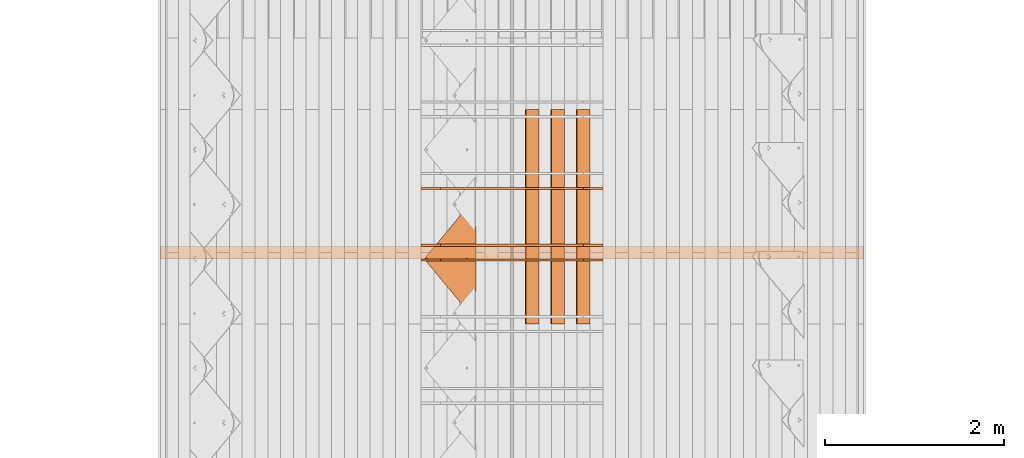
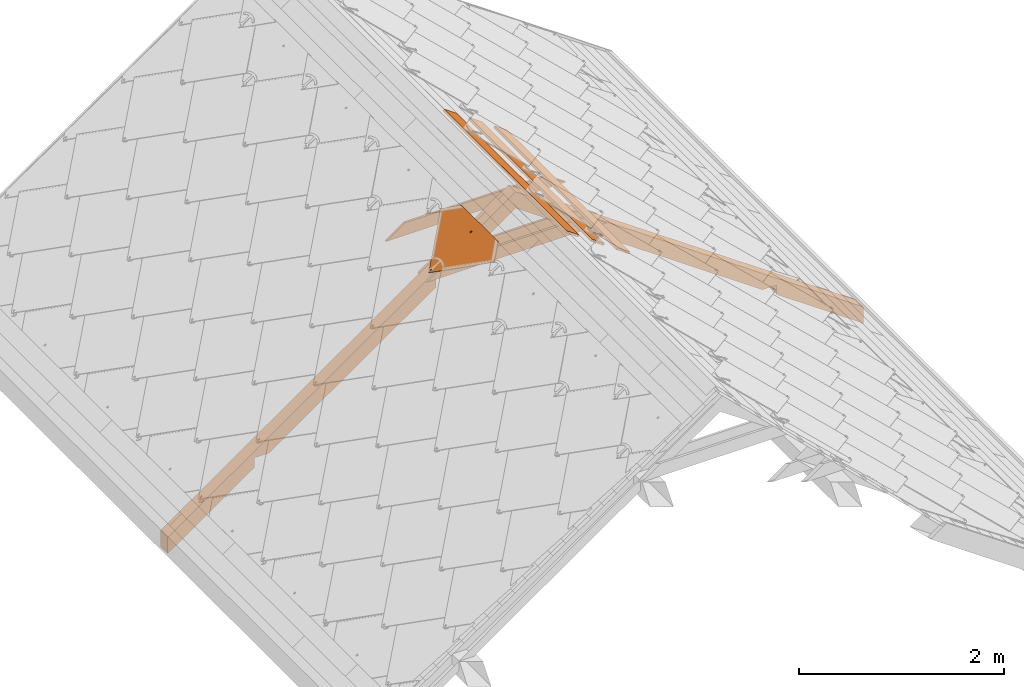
# One storey, part 56 of 133: 8 proxies, 1 element without a shape of its own.
"""IFC2X3 building model written with IfcOpenShell, lengths in millimetres."""

import ifcopenshell
import ifcopenshell.guid

model = None  # the IFC model being written
_history = None  # IfcOwnerHistory: only IFC2X3 demands one
_inside = {}  # id of a spatial element -> (the spatial element, [elements in it])
_under = {}  # id of a project, library or spatial element -> (it, [spatial elements below it])
_declared = {}  # id of a project -> (the project, [libraries it declares])
_typed = {}  # id of a type object -> (the type object, [elements of that type])
_made_of = {}  # id of a material, layer set ... -> (it, [elements and type objects made of it])


def new_model(schema):
    """Start an empty IFC model of exactly this schema.

    Asked for "IFC4X3", IfcOpenShell would pick the latest addendum, in which some entities
    have other attributes; the version numbers below select the first issue.
    IFC2X3 requires an IfcOwnerHistory on every rooted entity: one is made here for all.
    """
    global model, _history
    if schema == "IFC4X3":
        model = ifcopenshell.file(schema_version=(4, 3, 0, 0))
    else:
        model = ifcopenshell.file(schema=schema)
    _inside.clear()
    _under.clear()
    _declared.clear()
    _typed.clear()
    _made_of.clear()
    _history = None
    if model.schema == "IFC2X3":
        org = make("IfcOrganization", Name="unknown")
        user = make(
            "IfcPersonAndOrganization",
            ThePerson=make("IfcPerson", FamilyName="unknown"),
            TheOrganization=org,
        )
        app = make(
            "IfcApplication",
            ApplicationDeveloper=org,
            Version="unknown",
            ApplicationFullName="unknown",
            ApplicationIdentifier="unknown",
        )
        _history = make(
            "IfcOwnerHistory",
            OwningUser=user,
            OwningApplication=app,
            ChangeAction="ADDED",
            CreationDate=0,
        )
    return model


def make(cls, **values):
    """One entity of the class cls with the attributes given. An attribute that is None is left unset."""
    return model.create_entity(
        cls, **{name: value for name, value in values.items() if value is not None}
    )


def entity(cls, *values):
    """Any entity or typed value of the class cls, its attributes in the order of the schema. None: left unset."""
    e = model.create_entity(cls)
    for i, value in enumerate(values):
        if value is not None:
            e[i] = value
    return e


def rooted(cls, **values):
    """An entity with a GlobalId (a new one), such as an element, a storey or a relation."""
    return make(cls, GlobalId=ifcopenshell.guid.new(), OwnerHistory=_history, **values)


def si_unit(unit_type, name, prefix=None):
    """IfcSIUnit, for example si_unit("LENGTHUNIT", "METRE", prefix="MILLI")."""
    return make("IfcSIUnit", UnitType=unit_type, Prefix=prefix, Name=name)


def converted_unit(unit_type, name, factor, base, dimensions=None, offset=None):
    """IfcConversionBasedUnit, such as the inch: factor (a typed value) times the base unit."""
    return make(
        "IfcConversionBasedUnit"
        if offset is None
        else "IfcConversionBasedUnitWithOffset",
        ConversionOffset=offset,
        Dimensions=None
        if dimensions is None
        else entity("IfcDimensionalExponents", *dimensions),
        UnitType=unit_type,
        Name=name,
        ConversionFactor=make(
            "IfcMeasureWithUnit", ValueComponent=factor, UnitComponent=base
        ),
    )


def derived_unit(unit_type, elements):
    """IfcDerivedUnit: a product of units, each with its exponent."""
    return make(
        "IfcDerivedUnit",
        Elements=[
            make("IfcDerivedUnitElement", Unit=unit, Exponent=power)
            for unit, power in elements
        ],
        UnitType=unit_type,
    )


def assignment(units):
    """IfcUnitAssignment: the units of a project."""
    return None if units is None else make("IfcUnitAssignment", Units=units)


def point(xyz):
    """IfcCartesianPoint."""
    return None if xyz is None else make("IfcCartesianPoint", Coordinates=xyz)


def direction(xyz):
    """IfcDirection."""
    return None if xyz is None else make("IfcDirection", DirectionRatios=xyz)


def frame(location, z_axis=None, x_axis=None):
    """IfcAxis2Placement3D, a coordinate frame: its origin and axes. An axis left out is left unset."""
    return make(
        "IfcAxis2Placement3D",
        Location=point(location),
        Axis=direction(z_axis),
        RefDirection=direction(x_axis),
    )


def frame_2d(location, x_axis=None):
    """IfcAxis2Placement2D, a coordinate frame in the plane: its origin and x axis."""
    return make(
        "IfcAxis2Placement2D", Location=point(location), RefDirection=direction(x_axis)
    )


def origin():
    """The frame at (0, 0, 0) with its axes left unset."""
    return frame((0.0, 0.0, 0.0))


def place(relative_to, where):
    """IfcLocalPlacement: puts the frame where relative to a parent placement (None: the world)."""
    return make(
        "IfcLocalPlacement", PlacementRelTo=relative_to, RelativePlacement=where
    )


def context(
    kind, dimensions, precision=None, world=None, true_north=None, identifier=None
):
    """IfcGeometricRepresentationContext, for example the 3D "Model" context."""
    return make(
        "IfcGeometricRepresentationContext",
        ContextIdentifier=identifier,
        ContextType=kind,
        CoordinateSpaceDimension=dimensions,
        Precision=precision,
        WorldCoordinateSystem=world,
        TrueNorth=true_north,
    )


def subcontext(parent, identifier, kind, view, scale=None):
    """IfcGeometricRepresentationSubContext, for example "Body" below "Model"."""
    return make(
        "IfcGeometricRepresentationSubContext",
        ContextIdentifier=identifier,
        ContextType=kind,
        ParentContext=parent,
        TargetScale=scale,
        TargetView=view,
    )


def project(units=None, contexts=None):
    """IfcProject with its units and contexts."""
    return rooted(
        "IfcProject",
        Name="project",
        RepresentationContexts=contexts,
        UnitsInContext=assignment(units),
    )


def spatial(cls, under=None, at=None, **own):
    """A site, building, storey or space (cls), placed at a placement, below another one or the project."""
    s = rooted(cls, ObjectPlacement=at, **own)
    if under is not None:
        _under.setdefault(under.id(), (under, []))[1].append(s)
    return s


def polyline(points):
    """IfcPolyline through the points."""
    return make("IfcPolyline", Points=[point(p) for p in points])


def profile(cls, at=None, kind="AREA", **sizes):
    """A parametric profile (cls). Its sizes go by their IFC names, for example OverallWidth=200.0."""
    return make(cls, ProfileType=kind, Position=at, **sizes)


def rectangle(**sizes):
    """IfcRectangleProfileDef."""
    return profile("IfcRectangleProfileDef", **sizes)


def outline(outer, holes=None, kind="AREA"):
    """IfcArbitraryClosedProfileDef: a profile drawn as a closed curve; with holes, ...WithVoids."""
    if holes is None:
        return make("IfcArbitraryClosedProfileDef", ProfileType=kind, OuterCurve=outer)
    return make(
        "IfcArbitraryProfileDefWithVoids",
        ProfileType=kind,
        OuterCurve=outer,
        InnerCurves=holes,
    )


def extrude(swept, where, along, depth):
    """IfcExtrudedAreaSolid: the profile swept, set in the frame where, extruded along a direction by depth."""
    return make(
        "IfcExtrudedAreaSolid",
        SweptArea=swept,
        Position=where,
        ExtrudedDirection=direction(along),
        Depth=depth,
    )


def faces_of(points, faces, orient=None, outer=None):
    """IfcFace entities. A face is a list of loops; a loop is a list of indices into points, from 0.

    orient and outer hold one flag for each loop. By default every Orientation is true, the
    first loop of a face is its IfcFaceOuterBound and the others are IfcFaceBound.
    """
    made = []
    for i, loops in enumerate(faces):
        bounds = []
        for j, loop in enumerate(loops):
            is_outer = j == 0 if outer is None else outer[i][j]
            bounds.append(
                make(
                    "IfcFaceOuterBound" if is_outer else "IfcFaceBound",
                    Bound=make("IfcPolyLoop", Polygon=[points[k] for k in loop]),
                    Orientation=True if orient is None else orient[i][j],
                )
            )
        made.append(make("IfcFace", Bounds=bounds))
    return made


def faceted_brep(points, faces, orient=None, outer=None, voids=None):
    """IfcFacetedBrep: a solid bounded by flat faces; with voids (closed shells), ...WithVoids."""
    shared = [point(p) for p in points]
    hull = make("IfcClosedShell", CfsFaces=faces_of(shared, faces, orient, outer))
    if voids is None:
        return make("IfcFacetedBrep", Outer=hull)
    return make(
        "IfcFacetedBrepWithVoids",
        Outer=hull,
        Voids=[
            make(cls, CfsFaces=faces_of(shared, fs, o, b)) for cls, fs, o, b in voids
        ],
    )


def shape(context_of_items, identifier, shape_type, items):
    """IfcShapeRepresentation: the items that make up one representation, for example the "Body"."""
    return make(
        "IfcShapeRepresentation",
        ContextOfItems=context_of_items,
        RepresentationIdentifier=identifier,
        RepresentationType=shape_type,
        Items=items,
    )


def source(mapping_origin, context_of_items, identifier, shape_type, items):
    """IfcRepresentationMap: a shape defined once, which mapped items show again and again."""
    return make(
        "IfcRepresentationMap",
        MappingOrigin=mapping_origin,
        MappedRepresentation=shape(context_of_items, identifier, shape_type, items),
    )


def transform(
    local_origin,
    x_axis=None,
    y_axis=None,
    z_axis=None,
    scale=None,
    scale2=None,
    scale3=None,
    uniform=True,
):
    """IfcCartesianTransformationOperator3D, or its non-uniform kind. x_axis, y_axis, z_axis: its Axis1, 2, 3."""
    if uniform:
        return make(
            "IfcCartesianTransformationOperator3D",
            Axis1=direction(x_axis),
            Axis2=direction(y_axis),
            LocalOrigin=point(local_origin),
            Scale=scale,
            Axis3=direction(z_axis),
        )
    return make(
        "IfcCartesianTransformationOperator3DnonUniform",
        Axis1=direction(x_axis),
        Axis2=direction(y_axis),
        LocalOrigin=point(local_origin),
        Scale=scale,
        Axis3=direction(z_axis),
        Scale2=scale2,
        Scale3=scale3,
    )


def mapped(mapping_source, mapping_target):
    """IfcMappedItem: shows the shape of a source again, moved by a transform."""
    return make(
        "IfcMappedItem", MappingSource=mapping_source, MappingTarget=mapping_target
    )


def material(Name=None, Category=None):
    """IfcMaterial."""
    return make("IfcMaterial", Name=Name, Category=Category)


def material_list(materials):
    """IfcMaterialList."""
    return make("IfcMaterialList", Materials=materials)


def made_of(thing, what):
    """Note that an element or type object is made of a material, layer set ...; save() writes the relation."""
    if what is not None:
        _made_of.setdefault(what.id(), (what, []))[1].append(thing)
    return thing


def type_object(cls, material=None, **own):
    """A type object (cls), such as IfcWallType, which elements share."""
    return made_of(rooted(cls, **own), material)


def type_shapes(of_type, sources):
    """Give a type object the sources (RepresentationMaps) that its elements show as mapped items."""
    of_type.RepresentationMaps = sources


def element(
    cls,
    number,
    at=None,
    inside=None,
    cuts=None,
    type_object=None,
    material=None,
    context=None,
    identifier="Body",
    shape_type=None,
    held_by="IfcProductDefinitionShape",
    body=None,
    shapes=None,
    **own,
):
    """One element of the class cls, such as IfcWall. Its Tag is "e" and its number.

    at: its placement. inside: the storey or other place that contains it. cuts: it is an
    opening in that element (IfcRelVoidsElement). A single representation is given by context,
    identifier, shape_type and body (its items); several are given by shapes. held_by: the class
    of the entity that holds the representations. save() writes the other relations.
    """
    e = rooted(cls, Tag="e%d" % number, ObjectPlacement=at, **own)
    if body is not None:
        shapes = [shape(context, identifier, shape_type, body)]
    if shapes is not None:
        e.Representation = make(held_by, Representations=shapes)
    if inside is not None:
        _inside.setdefault(inside.id(), (inside, []))[1].append(e)
    if cuts is not None:
        rooted(
            "IfcRelVoidsElement", RelatingBuildingElement=cuts, RelatedOpeningElement=e
        )
    if type_object is not None:
        _typed.setdefault(type_object.id(), (type_object, []))[1].append(e)
    return made_of(e, material)


def aggregate(whole, parts):
    """IfcRelAggregates: a whole, such as a stair, and the parts it consists of."""
    return rooted("IfcRelAggregates", RelatingObject=whole, RelatedObjects=parts)


def save(model, path):
    """Write the relations noted so far, then the file.

    IfcRelAggregates (storeys below a building ...), IfcRelContainedInSpatialStructure (elements
    in a storey), IfcRelDefinesByType, IfcRelAssociatesMaterial and IfcRelDeclares: one each for
    every whole, place, type object, material and project.
    """
    for whole, parts in _under.values():
        aggregate(whole, parts)
    for where, things in _inside.values():
        rooted(
            "IfcRelContainedInSpatialStructure",
            RelatedElements=things,
            RelatingStructure=where,
        )
    for kind, things in _typed.values():
        rooted("IfcRelDefinesByType", RelatedObjects=things, RelatingType=kind)
    for what, things in _made_of.values():
        rooted("IfcRelAssociatesMaterial", RelatedObjects=things, RelatingMaterial=what)
    for by, libraries in _declared.values():
        rooted("IfcRelDeclares", RelatingContext=by, RelatedDefinitions=libraries)
    model.write(path)


model = new_model("IFC2X3")

# Units and contexts
model_context = context("Model", 3, precision=0.01, world=origin(), true_north=direction((6.12303176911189e-17, 1.0)))
body_context = subcontext(model_context, "Body", "Model", "MODEL_VIEW")
ifc_project = project(units=[si_unit("LENGTHUNIT", "METRE", prefix="MILLI"), si_unit("AREAUNIT", "SQUARE_METRE"), si_unit("VOLUMEUNIT", "CUBIC_METRE"), converted_unit("PLANEANGLEUNIT", "DEGREE", entity("IfcRatioMeasure", 0.0174532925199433), si_unit("PLANEANGLEUNIT", "RADIAN"), dimensions=[0, 0, 0, 0, 0, 0, 0]), si_unit("MASSUNIT", "GRAM", prefix="KILO"), derived_unit("MASSDENSITYUNIT", [(si_unit("MASSUNIT", "GRAM", prefix="KILO"), 1), (si_unit("LENGTHUNIT", "METRE"), -3)]), si_unit("TIMEUNIT", "SECOND"), si_unit("FREQUENCYUNIT", "HERTZ"), si_unit("THERMODYNAMICTEMPERATUREUNIT", "DEGREE_CELSIUS"), derived_unit("THERMALTRANSMITTANCEUNIT", [(si_unit("MASSUNIT", "GRAM", prefix="KILO"), 1), (si_unit("THERMODYNAMICTEMPERATUREUNIT", "KELVIN"), -1), (si_unit("TIMEUNIT", "SECOND"), -3)]), derived_unit("VOLUMETRICFLOWRATEUNIT", [(si_unit("LENGTHUNIT", "METRE"), 3), (si_unit("TIMEUNIT", "SECOND"), -1)]), si_unit("ELECTRICCURRENTUNIT", "AMPERE"), si_unit("ELECTRICVOLTAGEUNIT", "VOLT"), si_unit("POWERUNIT", "WATT"), si_unit("FORCEUNIT", "NEWTON", prefix="KILO"), si_unit("ILLUMINANCEUNIT", "LUX"), si_unit("LUMINOUSFLUXUNIT", "LUMEN"), si_unit("LUMINOUSINTENSITYUNIT", "CANDELA"), derived_unit("USERDEFINED", [(si_unit("MASSUNIT", "GRAM", prefix="KILO"), -1), (si_unit("LENGTHUNIT", "METRE"), -2), (si_unit("TIMEUNIT", "SECOND"), 3), (si_unit("LUMINOUSFLUXUNIT", "LUMEN"), 1)]), derived_unit("LINEARVELOCITYUNIT", [(si_unit("LENGTHUNIT", "METRE"), 1), (si_unit("TIMEUNIT", "SECOND"), -1)]), si_unit("PRESSUREUNIT", "PASCAL"), derived_unit("USERDEFINED", [(si_unit("LENGTHUNIT", "METRE"), -2), (si_unit("MASSUNIT", "GRAM", prefix="KILO"), 1), (si_unit("TIMEUNIT", "SECOND"), -2)])], contexts=[model_context])

# Site, building, storey
site_placement = place(None, origin())
site = spatial("IfcSite", under=ifc_project, at=site_placement, Name="Default", CompositionType="ELEMENT")
building_placement = place(site_placement, origin())
building = spatial("IfcBuilding", under=site, at=building_placement, CompositionType="ELEMENT")
storey_placement = place(building_placement, origin())
storey = spatial("IfcBuildingStorey", under=building, at=storey_placement, Name="Level 1", CompositionType="ELEMENT", Elevation=0.0)

# Assembly, proxies
assembly_placement = place(storey_placement, origin())
assembly = element("IfcElementAssembly", 1, at=assembly_placement, inside=storey, Name="Structural Framing Assembly:Roof Construction Assembly", ObjectType="Structural Framing Assembly:Roof Construction Assembly", AssemblyPlace="NOTDEFINED", PredefinedType="USERDEFINED")
ifc_material_1 = material(Name="Wood - Generic - Wood For Showcase")
building_element_proxy_type_1 = type_object("IfcBuildingElementProxyType", Name="Structural Framing 1", PredefinedType="NOTDEFINED", material=ifc_material_1)
shared_shape_1 = source(origin(), body_context, "Body", "SweptSolid", [
    extrude(outline(polyline([(-929.245683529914, -1327.10037070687), (3863.25950492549, -1327.10037070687), (3975.29271103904, -1167.10037070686), (2778.93361405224, -1167.10037070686), (2713.54351952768, -1260.48710386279), (2580.17344271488, -1167.10037070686), (278.933614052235, -1167.10037070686), (213.543519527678, -1260.48710386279), (80.173442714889, -1167.10037070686), (-817.212477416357, -1167.10037070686), (-1124.13653843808, -323.833443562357), (-1257.50661525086, -230.446710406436), (-1192.11652072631, -137.059977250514), (-1979.18689675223, 2025.39810840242), (-2112.55697356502, 2118.78484155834), (-2047.16687904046, 2212.17157471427), (-2456.34578886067, 3336.38138996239), (-2568.37899497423, 3176.38138996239), (-929.245683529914, -1327.10037070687)])), frame((1206.77890726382, 3785.55080214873, 1179.90959070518), z_axis=(0.0, 1.0, 0.0), x_axis=(0.819152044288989, 0.0, -0.573576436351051)), (0.0, 0.0, 1.0), 140.0),
])
type_shapes(building_element_proxy_type_1, [shared_shape_1])
proxy_1_placement = place(assembly_placement, frame((0.0, -4800.0, 0.0)))
proxy_1 = element("IfcBuildingElementProxy", 2, at=proxy_1_placement, type_object=building_element_proxy_type_1, material=ifc_material_1, Name="Structural Framing 7:Structural Framing 1", ObjectType="Structural Framing 7:Structural Framing 1", context=body_context, shape_type="MappedRepresentation", body=[
    mapped(shared_shape_1, transform((0.0, 0.0, 0.0), scale=1.0)),
])
building_element_proxy_type_2 = type_object("IfcBuildingElementProxyType", Name="Structural Framing 15", PredefinedType="NOTDEFINED", material=ifc_material_1)
shared_shape_2 = source(origin(), body_context, "Body", "SweptSolid", [
    extrude(rectangle(XDim=24.9999999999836, YDim=174.344679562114, at=frame_2d((2.22044604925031e-13, -1.63424829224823e-13), x_axis=(1.0, 0.0))), frame((1285.35601305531, 1595.5508021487, 2760.23940055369), z_axis=(0.0, 1.0, 0.0), x_axis=(0.573576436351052, 0.0, 0.819152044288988)), (0.0, 0.0, 1.0), 2400.0),
])
type_shapes(building_element_proxy_type_2, [shared_shape_2])
proxy_2_placement = place(assembly_placement, frame((142.814800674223, -3340.0, -100.0)))
proxy_2 = element("IfcBuildingElementProxy", 3, at=proxy_2_placement, type_object=building_element_proxy_type_2, material=ifc_material_1, Name="Structural Framing 161:Structural Framing 15", ObjectType="Structural Framing 161:Structural Framing 15", context=body_context, shape_type="MappedRepresentation", body=[
    mapped(shared_shape_2, transform((0.0, 0.0, 0.0), scale=1.0)),
])
building_element_proxy_type_3 = type_object("IfcBuildingElementProxyType", Name="Structural Framing 15", PredefinedType="NOTDEFINED", material=ifc_material_1)
shared_shape_3 = source(origin(), body_context, "Body", "SweptSolid", [
    extrude(rectangle(XDim=24.9999999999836, YDim=174.344679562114, at=frame_2d((2.22044604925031e-13, -1.63424829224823e-13), x_axis=(1.0, 0.0))), frame((1285.35601305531, 1595.5508021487, 2760.23940055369), z_axis=(0.0, 1.0, 0.0), x_axis=(0.573576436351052, 0.0, 0.819152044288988)), (0.0, 0.0, 1.0), 2400.0),
])
type_shapes(building_element_proxy_type_3, [shared_shape_3])
proxy_3_placement = place(assembly_placement, frame((428.444402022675, -3340.0, -300.0)))
proxy_3 = element("IfcBuildingElementProxy", 4, at=proxy_3_placement, type_object=building_element_proxy_type_3, material=ifc_material_1, Name="Structural Framing 171:Structural Framing 15", ObjectType="Structural Framing 171:Structural Framing 15", context=body_context, shape_type="MappedRepresentation", body=[
    mapped(shared_shape_3, transform((0.0, 0.0, 0.0), scale=1.0)),
])
building_element_proxy_type_4 = type_object("IfcBuildingElementProxyType", Name="Structural Framing 15", PredefinedType="NOTDEFINED", material=ifc_material_1)
shared_shape_4 = source(origin(), body_context, "Body", "SweptSolid", [
    extrude(rectangle(XDim=24.9999999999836, YDim=174.344679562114, at=frame_2d((2.22044604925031e-13, -1.63424829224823e-13), x_axis=(1.0, 0.0))), frame((1285.35601305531, 1595.5508021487, 2760.23940055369), z_axis=(0.0, 1.0, 0.0), x_axis=(0.573576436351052, 0.0, 0.819152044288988)), (0.0, 0.0, 1.0), 2400.0),
])
type_shapes(building_element_proxy_type_4, [shared_shape_4])
proxy_4_placement = place(assembly_placement, frame((714.074003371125, -3340.0, -500.0)))
proxy_4 = element("IfcBuildingElementProxy", 5, at=proxy_4_placement, type_object=building_element_proxy_type_4, material=ifc_material_1, Name="Structural Framing 181:Structural Framing 15", ObjectType="Structural Framing 181:Structural Framing 15", context=body_context, shape_type="MappedRepresentation", body=[
    mapped(shared_shape_4, transform((0.0, 0.0, 0.0), scale=1.0)),
])
building_element_proxy_type_5 = type_object("IfcBuildingElementProxyType", Name="Structural Framing 296", PredefinedType="NOTDEFINED", material=ifc_material_1)
shared_shape_5 = source(origin(), body_context, "Body", "SweptSolid", [
    extrude(outline(polyline([(-1014.04699829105, -75.0), (1014.04699829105, -75.0), (799.824797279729, 75.0), (-799.824797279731, 75.0), (-1014.04699829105, -75.0)])), frame((1206.77890726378, 3760.55080214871, 2164.95664769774), z_axis=(0.0, 1.0, 0.0), x_axis=(-1.0, 0.0, 0.0)), (0.0, 0.0, 1.0), 24.9999999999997),
])
type_shapes(building_element_proxy_type_5, [shared_shape_5])
proxy_5_placement = place(assembly_placement, frame((0.0, -4000.0, 0.0)))
proxy_5 = element("IfcBuildingElementProxy", 6, at=proxy_5_placement, type_object=building_element_proxy_type_5, material=ifc_material_1, Name="Structural Framing 305:Structural Framing 296", ObjectType="Structural Framing 305:Structural Framing 296", context=body_context, shape_type="MappedRepresentation", body=[
    mapped(shared_shape_5, transform((0.0, 0.0, 0.0), scale=1.0)),
])
building_element_proxy_type_6 = type_object("IfcBuildingElementProxyType", Name="Structural Framing 296", PredefinedType="NOTDEFINED", material=ifc_material_1)
shared_shape_6 = source(origin(), body_context, "Body", "SweptSolid", [
    extrude(outline(polyline([(-1014.04699829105, -75.0), (1014.04699829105, -75.0), (799.824797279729, 75.0), (-799.824797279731, 75.0), (-1014.04699829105, -75.0)])), frame((1206.77890726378, 3760.55080214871, 2164.95664769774), z_axis=(0.0, 1.0, 0.0), x_axis=(-1.0, 0.0, 0.0)), (0.0, 0.0, 1.0), 24.9999999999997),
])
type_shapes(building_element_proxy_type_6, [shared_shape_6])
proxy_6_placement = place(assembly_placement, frame((0.0, -4800.0, 0.0)))
proxy_6 = element("IfcBuildingElementProxy", 7, at=proxy_6_placement, type_object=building_element_proxy_type_6, material=ifc_material_1, Name="Structural Framing 307:Structural Framing 296", ObjectType="Structural Framing 307:Structural Framing 296", context=body_context, shape_type="MappedRepresentation", body=[
    mapped(shared_shape_6, transform((0.0, 0.0, 0.0), scale=1.0)),
])
building_element_proxy_type_7 = type_object("IfcBuildingElementProxyType", Name="Structural Framing 296", PredefinedType="NOTDEFINED", material=ifc_material_1)
shared_shape_7 = source(origin(), body_context, "Body", "SweptSolid", [
    extrude(outline(polyline([(-1014.04699829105, -75.0), (1014.04699829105, -75.0), (799.824797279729, 75.0), (-799.824797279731, 75.0), (-1014.04699829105, -75.0)])), frame((1206.77890726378, 2325.55080214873, 2164.95664769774), z_axis=(0.0, 1.0, 0.0), x_axis=(-1.0, 0.0, 0.0)), (0.0, 0.0, 1.0), 25.0),
])
type_shapes(building_element_proxy_type_7, [shared_shape_7])
proxy_7_placement = place(assembly_placement, frame((0.0, -3200.0, 0.0)))
proxy_7 = element("IfcBuildingElementProxy", 8, at=proxy_7_placement, type_object=building_element_proxy_type_7, material=ifc_material_1, Name="Structural Framing 308:Structural Framing 296", ObjectType="Structural Framing 308:Structural Framing 296", context=body_context, shape_type="MappedRepresentation", body=[
    mapped(shared_shape_7, transform((0.0, 0.0, 0.0), scale=1.0)),
])
aggregate(assembly, [proxy_1, proxy_2, proxy_3, proxy_4, proxy_5, proxy_6, proxy_7])

# Proxy
ifc_material_2 = material(Name="Rubber - Sunstyle - Black")
ifc_material_3 = material(Name="Glass - Sunstyle - Tainted Black")
ifc_material_list_1 = material_list([ifc_material_2, ifc_material_3])
ifc_material_list_2 = material_list([ifc_material_2, ifc_material_3])
building_element_proxy_type_8 = type_object("IfcBuildingElementProxyType", Name="Shingle Top - Black", PredefinedType="NOTDEFINED", material=ifc_material_list_2)
shared_shape_8 = source(origin(), body_context, "Body", "Brep", [
    faceted_brep([(-518.396436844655, -96.9865733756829, 16.4476231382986), (-518.396436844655, -96.9614556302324, 17.9474128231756), (-526.881123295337, -88.4767691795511, 17.8053154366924), (-526.881123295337, -88.5018869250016, 16.3055257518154), (-376.996804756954, 61.3404039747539, 13.7960402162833), (-368.512118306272, 52.8557175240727, 13.9381376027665), (-376.996804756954, 61.3655217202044, 15.2958299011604), (-368.512118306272, 52.8808352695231, 15.4379272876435)], [[[0, 1, 2, 3]], [[0, 3, 4, 5]], [[3, 2, 6, 4]], [[2, 1, 7, 6]], [[1, 0, 5, 7]], [[5, 4, 6, 7]]]),
    faceted_brep([(0.166366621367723, -33.6374645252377, -4.47296585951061), (-5.6078362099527, -36.9707346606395, -4.4171418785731), (-5.60783620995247, -36.6024255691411, 17.5747274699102), (0.166366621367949, -33.2691554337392, 17.5189034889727), (-5.60783620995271, -43.6372749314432, -4.30549391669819), (-5.60783620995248, -43.2689658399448, 17.6863754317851), (0.166366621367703, -46.9705450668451, -4.24966993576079), (0.166366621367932, -46.6022359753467, 17.7421994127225), (5.94056945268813, -43.6372749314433, -4.30549391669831), (5.94056945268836, -43.2689658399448, 17.686375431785), (5.94056945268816, -36.9707346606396, -4.41714187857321), (5.94056945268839, -36.6024255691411, 17.5747274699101), (-8.43733754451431, -48.5381935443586, 17.774621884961), (0.16636662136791, -52.1014648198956, 17.8342978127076), (-12.0011084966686, -39.9356957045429, 17.6305514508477), (-8.43733754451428, -31.3331978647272, 17.4864810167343), (0.166366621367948, -27.7699265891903, 17.4268050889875), (8.77007078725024, -31.3331978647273, 17.4864810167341), (12.3338417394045, -39.935695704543, 17.6305514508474), (8.77007078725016, -48.5381935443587, 17.7746218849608), (-11.1578780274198, -37.6406185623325, 19.9433933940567), (-9.59010793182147, -39.8646808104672, 21.8708760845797), (0.166366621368, -32.5516055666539, 22.5035764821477), (0.166366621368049, -31.3111079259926, 21.9232298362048), (0.166366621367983, -29.1535570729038, 20.9138547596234), (0.166366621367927, -51.5454208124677, 19.1093557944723), (0.166366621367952, -50.6018442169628, 21.273060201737), (0.166366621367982, -47.1524685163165, 22.7481046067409), (0.166366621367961, -28.2829626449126, 18.7197675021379), (-6.15687907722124, -43.5022527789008, 22.6869725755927), (-6.15687907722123, -36.2018213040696, 22.5647085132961), (11.4906112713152, -42.1520387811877, 20.0189484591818), (10.0152467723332, -40.9390872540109, 21.7920079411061), (6.48961231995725, -36.2018213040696, 22.564708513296), (6.48961231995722, -43.5022527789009, 22.6869725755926), (-6.15687907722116, -43.3682243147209, 30.68986075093), (0.166366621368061, -47.0184400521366, 30.7509927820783), (0.166366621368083, -39.7180085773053, 30.6287287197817), (-6.15687907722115, -36.0677928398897, 30.5675966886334), (6.48961231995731, -43.368224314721, 30.6898607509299), (6.48961231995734, -36.0677928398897, 30.5675966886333), (0.166366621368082, -32.417577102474, 30.5064646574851), (0.166366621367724, -40.3040047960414, -4.36131789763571)], [[[0, 1, 2, 3]], [[1, 4, 5, 2]], [[4, 6, 7, 5]], [[6, 8, 9, 7]], [[8, 10, 11, 9]], [[10, 0, 3, 11]], [[12, 7, 13]], [[7, 12, 5]], [[14, 5, 12]], [[5, 14, 2]], [[15, 2, 14]], [[3, 2, 15]], [[15, 16, 3]], [[16, 17, 3]], [[11, 3, 17]], [[11, 17, 18]], [[9, 11, 18]], [[18, 19, 9]], [[7, 9, 19]], [[19, 13, 7]], [[20, 14, 12]], [[21, 22, 23, 24]], [[24, 20, 21]], [[25, 20, 12]], [[26, 27, 21]], [[15, 14, 20]], [[12, 13, 25]], [[20, 28, 15]], [[28, 20, 24]], [[21, 27, 29]], [[21, 29, 30]], [[26, 21, 20]], [[20, 25, 26]], [[15, 28, 16]], [[21, 30, 22]], [[31, 18, 17]], [[28, 31, 17]], [[32, 27, 26]], [[26, 31, 32]], [[26, 25, 31]], [[25, 19, 31]], [[17, 16, 28]], [[31, 19, 18]], [[24, 31, 28]], [[33, 34, 32]], [[23, 22, 33]], [[24, 32, 31]], [[27, 32, 34]], [[32, 23, 33]], [[19, 25, 13]], [[32, 24, 23]], [[35, 36, 37]], [[37, 38, 35]], [[36, 39, 37]], [[40, 37, 39]], [[37, 40, 41]], [[37, 41, 38]], [[42, 6, 4]], [[4, 1, 42]], [[1, 0, 42]], [[42, 8, 6]], [[0, 10, 42]], [[8, 42, 10]], [[22, 30, 38, 41]], [[30, 29, 35, 38]], [[29, 27, 36, 35]], [[27, 34, 39, 36]], [[34, 33, 40, 39]], [[33, 22, 41, 40]]]),
    faceted_brep([(0.0, -573.927138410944, 4.00636906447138), (-5.77420283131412, -577.260408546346, 4.0621930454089), (-5.77420283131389, -576.892099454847, 26.0540623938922), (0.0, -573.558829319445, 25.9982384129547), (-5.77420283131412, -583.926948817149, 4.1738410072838), (-5.7742028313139, -583.558639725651, 26.1657103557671), (0.0, -587.260218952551, 4.2296649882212), (0.0, -586.891909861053, 26.2215343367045), (5.77420283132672, -583.926948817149, 4.17384100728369), (5.77420283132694, -583.558639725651, 26.165710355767), (5.77420283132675, -577.260408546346, 4.06219304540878), (5.77420283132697, -576.892099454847, 26.0540623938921), (-8.60370416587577, -588.827867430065, 26.253956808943), (0.0, -592.391138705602, 26.3136327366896), (-12.1674751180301, -580.225369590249, 26.1098863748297), (-8.60370416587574, -571.622871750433, 25.9658159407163), (0.0, -568.059600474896, 25.9061400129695), (8.60370416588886, -571.622871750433, 25.9658159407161), (12.1674751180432, -580.225369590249, 26.1098863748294), (8.60370416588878, -588.827867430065, 26.2539568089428), (-11.3242446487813, -577.930292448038, 28.4227283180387), (-9.75647455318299, -580.154354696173, 30.3502110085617), (0.0, -572.84127945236, 30.9829114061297), (0.0, -571.600781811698, 30.4025647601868), (0.0, -569.44323095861, 29.3931896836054), (0.0, -591.835094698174, 27.5886907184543), (0.0, -590.891518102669, 29.752395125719), (0.0, -587.442142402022, 31.227439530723), (0.0, -568.572636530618, 27.1991024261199), (-6.32324569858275, -583.791926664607, 31.1663074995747), (-6.32324569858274, -576.491495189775, 31.0440434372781), (11.3242446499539, -582.441712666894, 28.4982833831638), (9.84888015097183, -581.228761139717, 30.2713428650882), (6.32324569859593, -576.491495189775, 31.044043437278), (6.32324569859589, -583.791926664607, 31.1663074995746), (-6.32324569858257, -583.657898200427, 39.169195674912), (0.0, -587.308113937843, 39.2303277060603), (0.0, -580.007682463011, 39.1080636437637), (-6.32324569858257, -576.357466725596, 39.0469316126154), (6.32324569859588, -583.657898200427, 39.1691956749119), (6.32324569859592, -576.357466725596, 39.0469316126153), (0.0, -572.70725098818, 38.9857995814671), (0.0, -580.593678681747, 4.11801702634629)], [[[0, 1, 2, 3]], [[1, 4, 5, 2]], [[4, 6, 7, 5]], [[6, 8, 9, 7]], [[8, 10, 11, 9]], [[10, 0, 3, 11]], [[12, 7, 13]], [[7, 12, 5]], [[14, 5, 12]], [[5, 14, 2]], [[15, 2, 14]], [[3, 2, 15]], [[15, 16, 3]], [[16, 17, 3]], [[11, 3, 17]], [[11, 17, 18]], [[9, 11, 18]], [[18, 19, 9]], [[7, 9, 19]], [[19, 13, 7]], [[20, 14, 12]], [[21, 22, 23, 24]], [[24, 20, 21]], [[25, 20, 12]], [[26, 27, 21]], [[15, 14, 20]], [[12, 13, 25]], [[20, 28, 15]], [[28, 20, 24]], [[21, 27, 29]], [[21, 29, 30]], [[26, 21, 20]], [[20, 25, 26]], [[15, 28, 16]], [[21, 30, 22]], [[31, 18, 17]], [[28, 31, 17]], [[32, 27, 26]], [[26, 31, 32]], [[26, 25, 31]], [[25, 19, 31]], [[17, 16, 28]], [[31, 19, 18]], [[24, 31, 28]], [[33, 34, 32]], [[23, 22, 33]], [[24, 32, 31]], [[27, 32, 34]], [[32, 23, 33]], [[19, 25, 13]], [[32, 24, 23]], [[35, 36, 37]], [[37, 38, 35]], [[36, 39, 37]], [[40, 37, 39]], [[37, 40, 41]], [[37, 41, 38]], [[42, 6, 4]], [[4, 1, 42]], [[1, 0, 42]], [[42, 8, 6]], [[0, 10, 42]], [[8, 42, 10]], [[22, 30, 38, 41]], [[30, 29, 35, 38]], [[29, 27, 36, 35]], [[27, 34, 39, 36]], [[34, 33, 40, 39]], [[33, 22, 41, 40]]]),
    faceted_brep([(518.482751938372, -96.8754983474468, 17.9260478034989), (526.967438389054, -88.3908118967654, 17.7839504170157), (526.967438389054, -88.3656941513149, 19.2837401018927), (518.482751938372, -96.8503806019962, 19.4258374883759), (349.749400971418, 71.8105397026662, 15.1009763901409), (358.234087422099, 80.2952261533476, 14.9588790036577), (358.234087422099, 80.3203438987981, 16.4586686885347), (349.749400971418, 71.8356574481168, 16.6007660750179)], [[[0, 1, 2, 3]], [[1, 0, 4, 5]], [[2, 1, 5, 6]], [[3, 2, 6, 7]], [[0, 3, 7, 4]], [[4, 7, 6, 5]]]),
    faceted_brep([(358.234087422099, 80.2952261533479, 14.9588790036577), (6.94661128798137, -35.8890860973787, 16.9046771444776), (7.74581466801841, -37.8182632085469, 16.9369860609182), (5.67526230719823, -34.2324641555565, 16.8769328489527), (8.01840805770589, -39.8885252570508, 16.9716577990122), (7.74581466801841, -41.9587873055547, 17.0063295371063), (6.94661128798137, -43.8879644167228, 17.0386384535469), (526.967438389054, -88.3908118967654, 17.7839504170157), (4.01840805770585, -32.9612934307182, 16.855643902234), (2.08896041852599, -32.1622021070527, 16.8422611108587), (0.0184080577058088, -31.8896469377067, 16.8376964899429), (-358.233442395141, 80.2952261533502, 14.9588790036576), (-2.05214430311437, -32.1622021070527, 16.8422611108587), (-3.98159194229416, -32.9612934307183, 16.855643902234), (-5.63844619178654, -34.2324641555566, 16.8769328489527), (-6.90979517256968, -35.8890860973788, 16.9046771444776), (-7.70899855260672, -37.8182632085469, 16.9369860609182), (-7.98159194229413, -39.8885252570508, 16.9716577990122), (-7.70899855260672, -41.9587873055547, 17.0063295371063), (-6.90979517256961, -43.8879644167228, 17.0386384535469), (-526.966793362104, -88.390811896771, 17.7839504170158), (-5.63844619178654, -45.544586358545, 17.0663827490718), (-5.6568542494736, -574.226981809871, 25.9204974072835), (-6.92820323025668, -575.883603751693, 25.9482417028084), (-7.72740661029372, -577.812780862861, 25.980550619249), (-8.0, -579.883042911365, 26.015222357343), (-7.72740661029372, -581.953304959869, 26.049894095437), (0.000322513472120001, -615.210165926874, 26.6068637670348), (7.72740661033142, -581.953304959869, 26.049894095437), (6.92820323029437, -583.882482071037, 26.0822030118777), (5.65685424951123, -585.53910401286, 26.1099473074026), (4.0, -586.810274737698, 26.1312362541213), (2.070552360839, -587.609366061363, 26.1446190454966), (0.0, -587.881921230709, 26.1491836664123), (-2.0705523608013, -587.609366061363, 26.1446190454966), (-4.0, -586.810274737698, 26.1312362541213), (-5.65685424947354, -585.53910401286, 26.1099473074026), (-6.92820323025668, -583.882482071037, 26.0822030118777), (-4.0, -572.955811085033, 25.8992084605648), (-3.98159194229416, -46.8157570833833, 17.0876716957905), (-2.07055236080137, -572.156719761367, 25.8858256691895), (-2.05214430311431, -47.614848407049, 17.1010544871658), (0.0, -571.884164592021, 25.8812610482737), (0.0184080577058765, -47.8874035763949, 17.1056191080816), (2.07055236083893, -572.156719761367, 25.8858256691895), (2.08896041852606, -47.6148484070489, 17.1010544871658), (4.0, -572.955811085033, 25.8992084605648), (4.01840805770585, -46.8157570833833, 17.0876716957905), (5.65685424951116, -574.226981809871, 25.9204974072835), (5.67526230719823, -45.544586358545, 17.0663827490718), (6.92820323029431, -575.883603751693, 25.9482417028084), (7.72740661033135, -577.812780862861, 25.980550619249), (8.0, -579.883042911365, 26.015222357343), (-358.233442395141, 80.1947551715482, 8.9597202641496), (-6.90979517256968, -35.9895570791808, 10.9055184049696), (-7.70899855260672, -37.9187341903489, 10.9378273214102), (-5.63844619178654, -34.3329351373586, 10.8777741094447), (-7.98159194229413, -39.9889962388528, 10.9724990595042), (-7.70899855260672, -42.0592582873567, 11.0071707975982), (-6.90979517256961, -43.9884353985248, 11.0394797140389), (-526.966793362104, -88.4912828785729, 11.7847916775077), (-3.98159194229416, -33.0617644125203, 10.856485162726), (-2.05214430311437, -32.2626730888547, 10.8431023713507), (0.0184080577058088, -31.9901179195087, 10.8385377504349), (358.234087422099, 80.1947551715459, 8.95972026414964), (2.08896041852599, -32.2626730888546, 10.8431023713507), (4.01840805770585, -33.0617644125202, 10.856485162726), (5.67526230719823, -34.3329351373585, 10.8777741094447), (6.94661128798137, -35.9895570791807, 10.9055184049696), (7.74581466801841, -37.9187341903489, 10.9378273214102), (8.01840805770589, -39.9889962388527, 10.9724990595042), (7.74581466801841, -42.0592582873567, 11.0071707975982), (6.94661128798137, -43.9884353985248, 11.0394797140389), (526.967438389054, -88.4912828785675, 11.7847916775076), (5.67526230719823, -45.645057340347, 11.0672240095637), (5.65685424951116, -574.327452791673, 19.9213386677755), (6.92820323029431, -575.984074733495, 19.9490829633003), (7.72740661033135, -577.913251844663, 19.981391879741), (8.0, -579.983513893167, 20.016063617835), (7.72740661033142, -582.053775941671, 20.050735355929), (0.000322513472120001, -615.310636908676, 20.6077050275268), (-7.72740661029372, -582.053775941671, 20.050735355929), (-6.92820323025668, -583.982953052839, 20.0830442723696), (-5.65685424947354, -585.639574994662, 20.1107885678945), (-4.0, -586.9107457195, 20.1320775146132), (-2.0705523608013, -587.709837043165, 20.1454603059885), (0.0, -587.982392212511, 20.1500249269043), (2.070552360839, -587.709837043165, 20.1454603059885), (4.0, -586.9107457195, 20.1320775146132), (5.65685424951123, -585.639574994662, 20.1107885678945), (6.92820323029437, -583.982953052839, 20.0830442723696), (4.01840805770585, -46.9162280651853, 11.0885129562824), (4.0, -573.056282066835, 19.9000497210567), (2.08896041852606, -47.7153193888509, 11.1018957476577), (2.07055236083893, -572.257190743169, 19.8866669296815), (0.0184080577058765, -47.9878745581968, 11.1064603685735), (0.0, -571.984635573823, 19.8821023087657), (-2.05214430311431, -47.7153193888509, 11.1018957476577), (-2.07055236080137, -572.257190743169, 19.8866669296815), (-3.98159194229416, -46.9162280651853, 11.0885129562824), (-4.0, -573.056282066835, 19.9000497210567), (-5.63844619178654, -45.645057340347, 11.0672240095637), (-5.6568542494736, -574.327452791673, 19.9213386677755), (-6.92820323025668, -575.984074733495, 19.9490829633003), (-7.72740661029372, -577.913251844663, 19.981391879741), (-8.0, -579.983513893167, 20.016063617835)], [[[0, 1, 2]], [[1, 0, 3]], [[0, 2, 4]], [[4, 5, 0]], [[5, 6, 0]], [[7, 0, 6]], [[8, 3, 0]], [[9, 8, 0]], [[10, 9, 0]], [[0, 11, 10]], [[12, 10, 11]], [[13, 12, 11]], [[14, 13, 11]], [[11, 15, 14]], [[15, 11, 16]], [[16, 11, 17]], [[11, 18, 17]], [[18, 11, 19]], [[11, 20, 19]], [[19, 20, 21]], [[20, 22, 21]], [[23, 22, 20]], [[24, 23, 20]], [[24, 20, 25]], [[26, 25, 20]], [[27, 26, 20]], [[7, 28, 27]], [[29, 27, 28]], [[27, 29, 30]], [[30, 31, 27]], [[31, 32, 27]], [[27, 32, 33]], [[27, 33, 34]], [[34, 35, 27]], [[27, 35, 36]], [[36, 37, 27]], [[37, 26, 27]], [[38, 21, 22]], [[38, 39, 21]], [[38, 40, 39]], [[40, 41, 39]], [[40, 42, 41]], [[41, 42, 43]], [[44, 43, 42]], [[44, 45, 43]], [[45, 44, 46]], [[46, 47, 45]], [[46, 48, 47]], [[48, 49, 47]], [[50, 7, 48]], [[48, 7, 49]], [[7, 50, 51]], [[7, 51, 52]], [[52, 28, 7]], [[7, 6, 49]], [[53, 54, 55]], [[54, 53, 56]], [[53, 55, 57]], [[58, 53, 57]], [[59, 53, 58]], [[60, 53, 59]], [[61, 56, 53]], [[62, 61, 53]], [[53, 63, 62]], [[63, 53, 64]], [[65, 63, 64]], [[66, 65, 64]], [[64, 67, 66]], [[67, 64, 68]], [[68, 64, 69]], [[70, 69, 64]], [[71, 70, 64]], [[72, 71, 64]], [[72, 64, 73]], [[72, 73, 74]], [[74, 73, 75]], [[73, 76, 75]], [[76, 73, 77]], [[77, 73, 78]], [[79, 78, 73]], [[79, 73, 80]], [[60, 81, 80]], [[80, 81, 82]], [[80, 82, 83]], [[83, 84, 80]], [[84, 85, 80]], [[85, 86, 80]], [[80, 86, 87]], [[80, 87, 88]], [[80, 88, 89]], [[79, 80, 90]], [[80, 89, 90]], [[75, 91, 74]], [[75, 92, 91]], [[92, 93, 91]], [[93, 92, 94]], [[93, 94, 95]], [[96, 95, 94]], [[97, 95, 96]], [[96, 98, 97]], [[98, 99, 97]], [[98, 100, 99]], [[100, 101, 99]], [[100, 102, 101]], [[60, 101, 102]], [[103, 60, 102]], [[103, 104, 60]], [[104, 105, 60]], [[105, 81, 60]], [[59, 101, 60]], [[27, 20, 60, 80]], [[7, 27, 80, 73]], [[0, 7, 73, 64]], [[25, 105, 104, 24]], [[24, 104, 103, 23]], [[38, 22, 102, 100]], [[102, 22, 23, 103]], [[40, 38, 100, 98]], [[40, 98, 96, 42]], [[42, 96, 94, 44]], [[44, 94, 92, 46]], [[50, 48, 75, 76]], [[75, 48, 46, 92]], [[51, 50, 76, 77]], [[51, 77, 78, 52]], [[52, 78, 79, 28]], [[28, 79, 90, 29]], [[31, 30, 89, 88]], [[29, 90, 89, 30]], [[87, 32, 31, 88]], [[32, 87, 86, 33]], [[34, 33, 86, 85]], [[34, 85, 84, 35]], [[37, 36, 83, 82]], [[35, 84, 83, 36]], [[37, 82, 81, 26]], [[26, 81, 105, 25]], [[17, 57, 55, 16]], [[16, 55, 54, 15]], [[13, 14, 56, 61]], [[56, 14, 15, 54]], [[12, 13, 61, 62]], [[12, 62, 63, 10]], [[10, 63, 65, 9]], [[9, 65, 66, 8]], [[1, 3, 67, 68]], [[67, 3, 8, 66]], [[2, 1, 68, 69]], [[2, 69, 70, 4]], [[4, 70, 71, 5]], [[5, 71, 72, 6]], [[47, 49, 74, 91]], [[74, 49, 6, 72]], [[45, 47, 91, 93]], [[45, 93, 95, 43]], [[43, 95, 97, 41]], [[41, 97, 99, 39]], [[19, 21, 101, 59]], [[101, 21, 39, 99]], [[18, 19, 59, 58]], [[18, 58, 57, 17]], [[11, 0, 64, 53]], [[20, 11, 53, 60]]]),
])
type_shapes(building_element_proxy_type_8, [shared_shape_8])
proxy_8_placement = place(storey_placement, frame((745.40961568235, -1014.8191263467, 2507.46510885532), z_axis=(-0.57357643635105, 0.0, 0.819152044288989), x_axis=(0.0, -1.0, 0.0)))
element("IfcBuildingElementProxy", 9, at=proxy_8_placement, inside=storey, type_object=building_element_proxy_type_8, material=ifc_material_list_1, Name="Roofing_Panels_SunStyle_Tile_Shingle-Top:Shingle Top - Black", ObjectType="Roofing_Panels_SunStyle_Tile_Shingle-Top:Shingle Top - Black", context=body_context, shape_type="MappedRepresentation", body=[
    mapped(shared_shape_8, transform((0.0, 0.0, 0.0), scale=1.0)),
])

save(model, "model.ifc")
